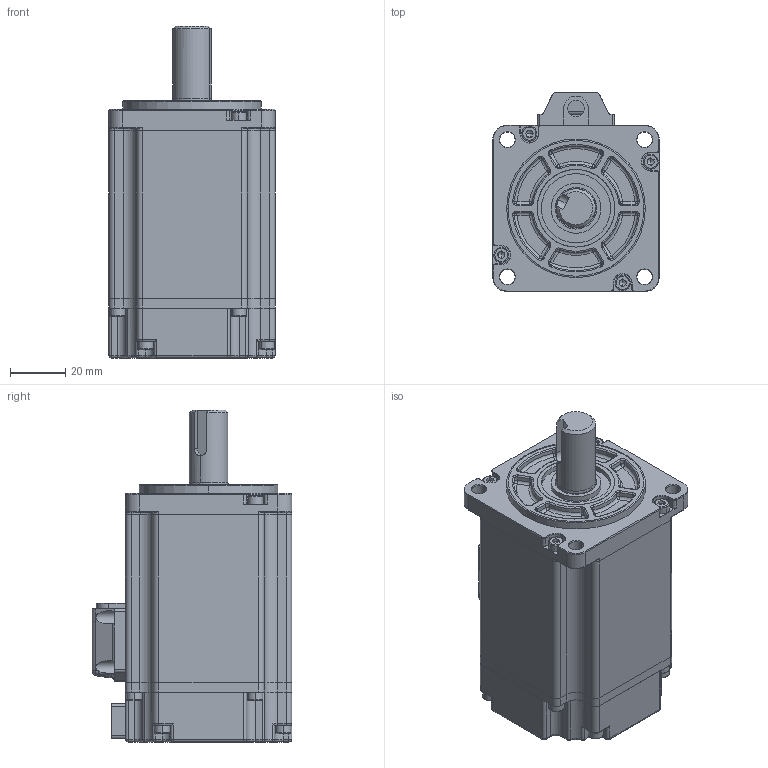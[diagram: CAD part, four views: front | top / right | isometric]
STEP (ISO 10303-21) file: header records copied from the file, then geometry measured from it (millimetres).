
FILE_DESCRIPTION (( 'STEP AP203' ), '1' );
FILE_NAME ('AS2MJ-06-0430B-D321-B.STEP', '2021-05-22T02:15:42', ( '' ), ( '' ), 'SwSTEP 2.0', 'SolidWorks 2016', '' );
FILE_SCHEMA (( 'CONFIG_CONTROL_DESIGN' ));
Length unit declared in the file: millimetre
Products named in the file (1): AS2MJ-06-0430B-D321-B
Bounding box: 60 x 72 x 119.8 mm (x, y, z)
Surface area: 36541.8 mm2 (no closed solid volume)
Topology: 0 solids, 25 shells, 754 faces, 2047 edges, 1244 vertices
Faces by surface type: cylinder 303, plane 231, torus 130, sphere 58, cone 28, bspline 4
Entity records: 23433 total; most frequent: DIRECTION 4413, CARTESIAN_POINT 4344, ORIENTED_EDGE 3563, EDGE_CURVE 1977, AXIS2_PLACEMENT_3D 1743, VERTEX_POINT 1236, CIRCLE 992, LINE 927
